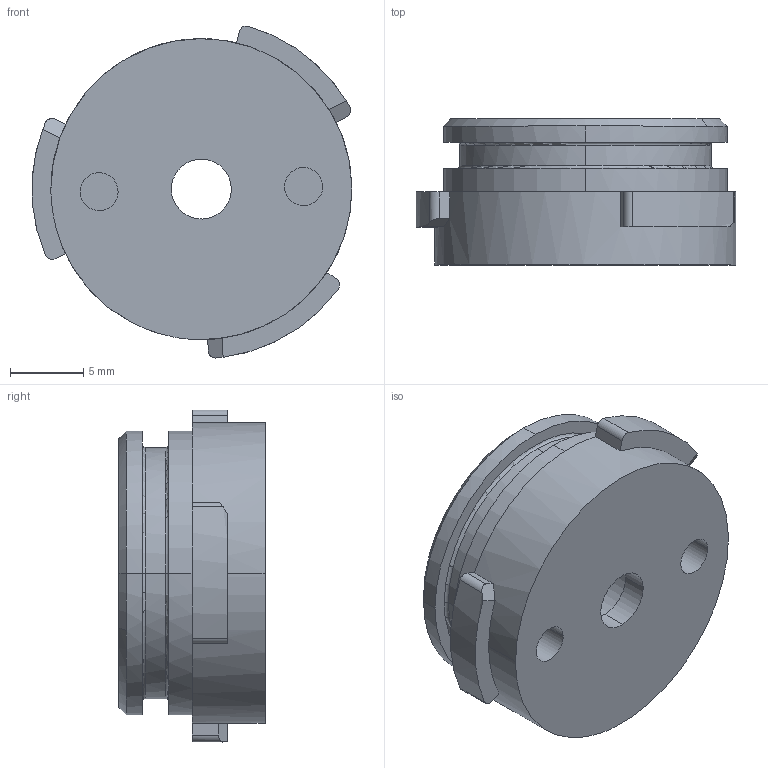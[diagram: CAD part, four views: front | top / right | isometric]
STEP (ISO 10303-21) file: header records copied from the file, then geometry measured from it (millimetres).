
FILE_DESCRIPTION(('CATIA V5 STEP Exchange'),'2;1');
FILE_NAME('C:\Users\Administrator\Desktop\BPC0010140-A.stp','2021-05-10T06:22:51+00:00',('none'),('none'),'CATIA Version 5 Release 20 GA (IN-10)','CATIA V5 STEP AP214','none');
FILE_SCHEMA(('AUTOMOTIVE_DESIGN { 1 0 10303 214 1 1 1 1 }'));
Length unit declared in the file: millimetre
Products named in the file (1): BPC0010140
Bounding box: 21.88 x 10 x 22.72 mm (x, y, z)
Volume: 2647.1 mm3; surface area: 1752.5 mm2
Topology: 1 solids, 1 shells, 78 faces, 209 edges, 141 vertices
Faces by surface type: cylinder 40, plane 22, torus 8, cone 8
Entity records: 2605 total; most frequent: CARTESIAN_POINT 731, ORIENTED_EDGE 418, DIRECTION 307, EDGE_CURVE 209, AXIS2_PLACEMENT_3D 167, VERTEX_POINT 141, CIRCLE 95, EDGE_LOOP 88
